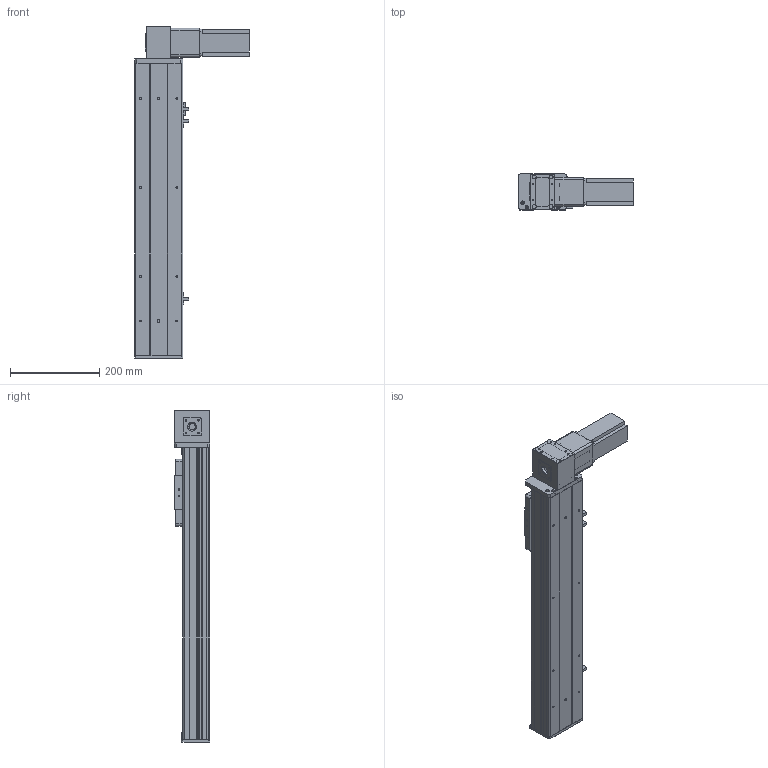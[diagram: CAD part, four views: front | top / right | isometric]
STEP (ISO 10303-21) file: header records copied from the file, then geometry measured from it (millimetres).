
FILE_DESCRIPTION (( 'STEP AP203' ), '1' );
FILE_NAME ('Y10CB-D90-S400-BM-P400W.STEP', '2020-02-17T02:22:28', ( '微软用户' ), ( '微软中国' ), 'SwSTEP 2.0', 'SolidWorks 2017', '' );
FILE_SCHEMA (( 'CONFIG_CONTROL_DESIGN' ));
Length unit declared in the file: millimetre
Products named in the file (16): 0Cb-俋欶---; 10CB-耜裔; Y10B-々湍喘謫眊楊擘啣--; Y135C-陔俋离換覜結え-; san松下电机400不带刹车----; Y100-135俋离換覜ん--; 0B-源倛裔啣; Y10B--々湍喘謫眊--666; 0B-埴倛裔啣; 0B-薊粣ん眊; 10CB-詩湍-; Y10CB-D90-S400-BM-P400W; Y10CB- 掛极耜裔啣-毀---; Y10C---詩湍揤啣; 0CB-雄赽釱---; 10CB9-掛极
Assembly tree (19 placements, depth 2):
  Y10CB-D90-S400-BM-P400W
    0CB-雄赽釱---
    0Cb-俋欶---
    Y10B-々湍喘謫眊楊擘啣--
    san松下电机400不带刹车----
    0B-源倛裔啣
    0B-埴倛裔啣
    10CB-詩湍-
    Y10CB- 掛极耜裔啣-毀---  x2
    Y10C---詩湍揤啣  x2
    10CB9-掛极
    10CB-耜裔
    Y135C-陔俋离換覜結え-
    Y100-135俋离換覜ん--  x3
    Y10B--々湍喘謫眊--666
    0B-薊粣ん眊
Bounding box: 258 x 80.5 x 746 mm (x, y, z)
Volume: 2089225.5 mm3; surface area: 839620.5 mm2
Topology: 19 solids, 19 shells, 864 faces, 2262 edges, 1484 vertices
Faces by surface type: plane 430, cylinder 410, cone 24
Entity records: 26069 total; most frequent: CARTESIAN_POINT 4460, DIRECTION 4253, ORIENTED_EDGE 3994, EDGE_CURVE 1997, AXIS2_PLACEMENT_3D 1527, VERTEX_POINT 1310, VECTOR 1199, LINE 1199
